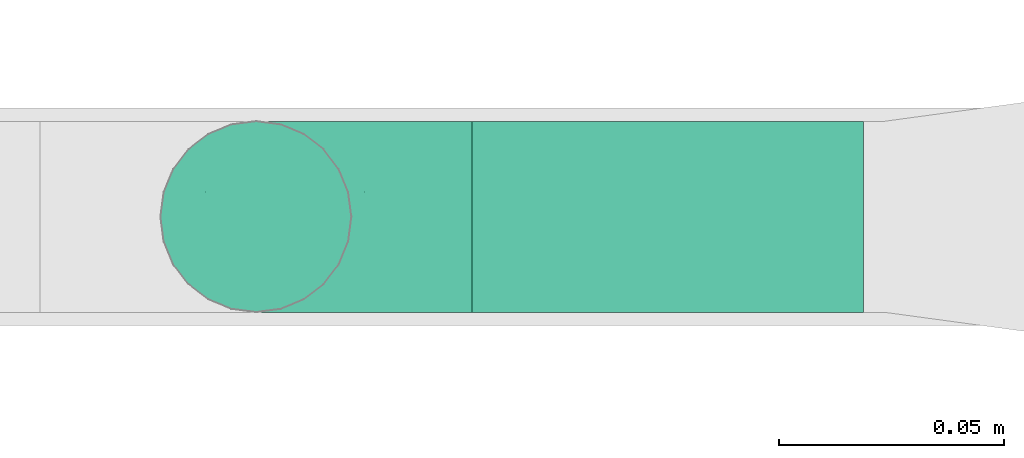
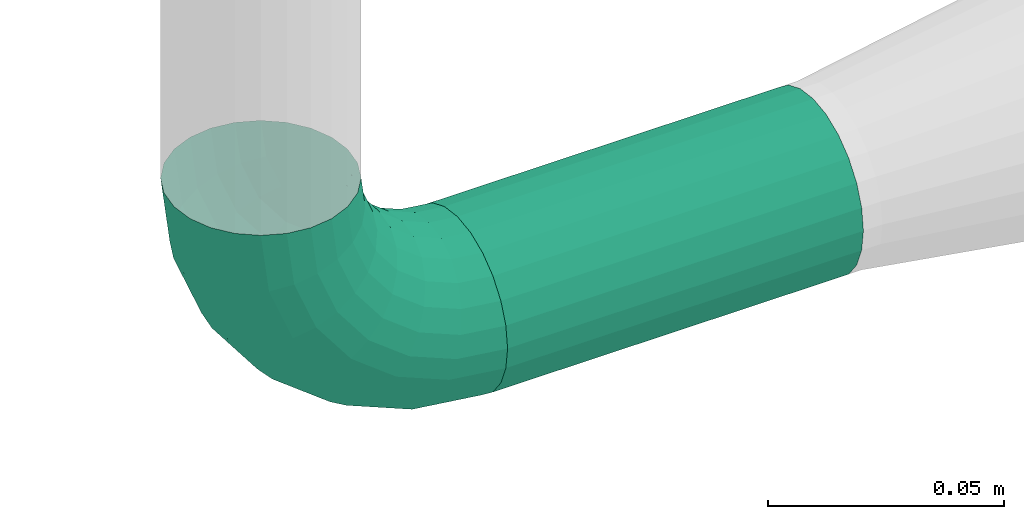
# One storey, part 283 of 374: 2 flow segments.
"""IFC2X3 building model written with IfcOpenShell, lengths in metres."""

from ifc_helpers import new_model, si_unit, direction, origin, place, context, subcontext, project, spatial, open_shell, surface_model, source, transform, mapped, element, save


model = new_model("IFC2X3")

# Units and contexts
model_context = context("Model", 3, precision=1e-05, world=origin(), true_north=direction((-0.4480736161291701, 0.8939966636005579)))
body_context = subcontext(model_context, "Body", "Model", "MODEL_VIEW")
ifc_project = project(units=[si_unit("LENGTHUNIT", "METRE"), si_unit("AREAUNIT", "SQUARE_METRE"), si_unit("VOLUMEUNIT", "CUBIC_METRE"), si_unit("PLANEANGLEUNIT", "RADIAN"), si_unit("THERMODYNAMICTEMPERATUREUNIT", "KELVIN"), si_unit("MASSUNIT", "GRAM", prefix="KILO"), si_unit("TIMEUNIT", "SECOND")], contexts=[model_context])

# Site, building, storey
site_placement = place(None, origin())
site = spatial("IfcSite", under=ifc_project, at=site_placement, Name="Site 1", CompositionType="ELEMENT")
building_placement = place(site_placement, origin())
building = spatial("IfcBuilding", under=site, at=building_placement, Name="Undefined", CompositionType="ELEMENT")
storey_placement = place(building_placement, origin())
storey = spatial("IfcBuildingStorey", under=building, at=storey_placement, Name="Rez de chauss\x8ee", CompositionType="ELEMENT", Elevation=0.0)

# Flow segments
shared_shape_1 = source(origin(), body_context, "Body", "SurfaceModel", [
    surface_model("IfcFaceBasedSurfaceModel", [(0.01806482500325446, 7.105427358e-15, 0.0), (0.017970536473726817, 0.005533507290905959, 0.0), (9.428852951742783e-05, 0.005533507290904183, 1.776356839e-15), (0.0, 0.0, 0.0), (-0.017172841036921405, 0.00613233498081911, -0.004587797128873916), (-0.01744928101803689, 0.0006051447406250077, -0.004636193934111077), (-0.03265412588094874, 0.007289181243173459, -0.013450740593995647), (-0.0330938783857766, 0.0017741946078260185, -0.013592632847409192), (-0.045294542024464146, 0.008925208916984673, -0.02598483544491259), (-0.045867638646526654, 0.0034274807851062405, -0.02625895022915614), (-0.054232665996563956, 0.010928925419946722, -0.041335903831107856), (-0.05490005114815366, 0.005452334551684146, -0.04177195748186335), (-0.05885937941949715, 0.013163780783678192, -0.05845779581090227), (-0.059575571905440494, 0.007710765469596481, -0.05907446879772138), (0.01769409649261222, 0.010875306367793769, -0.0014203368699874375), (0.00037072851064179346, 0.010875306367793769, -0.0014203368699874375), (-0.016362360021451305, 0.011455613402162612, -0.005866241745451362), (-0.03136483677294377, 0.012576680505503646, -0.014455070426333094), (-0.04361430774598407, 0.014162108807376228, -0.026601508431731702), (-0.05227599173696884, 0.016103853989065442, -0.0414777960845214), (-0.05675960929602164, 0.018269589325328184, -0.05807013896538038), (0.017254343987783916, 0.015661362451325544, -0.0041642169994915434), (0.0008104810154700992, 0.015661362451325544, -0.004164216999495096), (-0.01507307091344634, 0.016212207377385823, -0.008384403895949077), (-0.029313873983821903, 0.01727635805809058, -0.016537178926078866), (-0.04094144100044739, 0.01878129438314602, -0.02806694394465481), (-0.049163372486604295, 0.02062445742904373, -0.042187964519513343), (-0.05341935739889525, 0.02268023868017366, -0.05793791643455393), (0.016681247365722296, 0.01956551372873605, -0.008044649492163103), (0.001383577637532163, 0.01956551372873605, -0.008044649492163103), (-0.01339283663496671, 0.020077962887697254, -0.011970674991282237), (-0.026641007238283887, 0.021067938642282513, -0.01955517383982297), (-0.03745809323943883, 0.02246797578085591, -0.03028127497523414), (-0.04510692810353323, 0.0241826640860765, -0.04341801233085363), (-0.04906625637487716, 0.026095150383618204, -0.05807013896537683), (0.016013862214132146, 0.022321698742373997, -0.012797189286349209), (0.0020509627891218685, 0.022321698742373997, -0.012797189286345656), (-0.011436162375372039, 0.02278943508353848, -0.016380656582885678), (-0.023528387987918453, 0.02369303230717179, -0.023303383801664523), (-0.03340164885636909, 0.024970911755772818, -0.03309359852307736), (-0.040383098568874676, 0.026535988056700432, -0.04508411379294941), (-0.04399696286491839, 0.028281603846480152, -0.05845779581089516), (0.015297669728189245, 0.023742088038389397, -0.018097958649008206), (0.00276715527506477, 0.023742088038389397, -0.018097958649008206), (-0.009336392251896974, 0.024161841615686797, -0.021313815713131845), (-0.02018813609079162, 0.02497274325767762, -0.0275263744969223), (-0.029048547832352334, 0.02611953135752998, -0.03631225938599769), (-0.03531380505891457, 0.027524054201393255, -0.04707272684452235), (-0.0385569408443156, 0.02909059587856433, -0.05907446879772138), (0.014581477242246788, 0.023729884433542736, -0.02358571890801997), (0.0034833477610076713, 0.023729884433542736, -0.02358571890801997), (-0.007236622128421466, 0.024101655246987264, -0.026433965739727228), (-0.016847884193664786, 0.02481986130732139, -0.03193635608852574), (-0.02469544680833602, 0.02583555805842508, -0.03971791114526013), (-0.0302445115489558, 0.027079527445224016, -0.04924833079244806), (-0.03311691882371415, 0.02846699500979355, -0.059878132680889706), (0.013914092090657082, 0.02228591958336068, -0.02888648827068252), (0.004150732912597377, 0.022285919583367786, -0.028886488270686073), (-0.005279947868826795, 0.022612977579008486, -0.031392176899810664), (-0.013735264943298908, 0.023244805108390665, -0.03623279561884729), (-0.020639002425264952, 0.02413834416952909, -0.04307846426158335), (-0.025520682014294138, 0.025232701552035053, -0.051462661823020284), (-0.028047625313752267, 0.026453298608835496, -0.060814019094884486), (0.013340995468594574, 0.01950859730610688, -0.03363902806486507), (0.0047238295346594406, 0.01950859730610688, -0.033639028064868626), (-0.0035997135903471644, 0.019797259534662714, -0.035850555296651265), (-0.011062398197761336, 0.0203549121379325, -0.04012289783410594), (-0.017155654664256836, 0.021143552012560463, -0.04616490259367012), (-0.02146423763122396, 0.022109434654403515, -0.05356481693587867), (-0.02369452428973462, 0.023186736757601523, -0.06181834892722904), (0.012901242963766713, 0.015587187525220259, -0.037519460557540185), (0.005163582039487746, 0.015587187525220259, -0.03751946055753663), (-0.0023104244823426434, 0.015846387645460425, -0.03950526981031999), (-0.009011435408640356, 0.016347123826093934, -0.043341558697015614), (-0.01448278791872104, 0.017055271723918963, -0.048766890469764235), (-0.018351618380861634, 0.017922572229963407, -0.05541153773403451), (-0.02035427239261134, 0.018889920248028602, -0.06282267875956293), (0.012624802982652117, 0.010788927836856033, -0.040263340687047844), (0.005440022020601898, 0.010788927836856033, -0.0402633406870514), (-0.0014999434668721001, 0.011029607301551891, -0.04210725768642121), (-0.007722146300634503, 0.01149456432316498, -0.045669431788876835), (-0.012802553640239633, 0.012152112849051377, -0.05070710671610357), (-0.0163949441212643, 0.012957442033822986, -0.056876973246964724), (-0.018254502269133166, 0.013855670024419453, -0.06375856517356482), (0.012530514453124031, 0.005440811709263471, -0.041683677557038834), (0.005534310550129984, 0.0054408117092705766, -0.041683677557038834), (-0.0012235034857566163, 0.005675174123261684, -0.04347919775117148), (-0.007282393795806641, 0.006127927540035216, -0.046947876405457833), (-0.012229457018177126, 0.0067682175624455, -0.05185332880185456), (-0.015727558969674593, 0.007552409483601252, -0.05786125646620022), (-0.01753830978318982, 0.008427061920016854, -0.0645622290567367), (0.012624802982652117, -9.269558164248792e-05, -0.04168367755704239), (0.005440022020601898, -9.269558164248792e-05, -0.04168367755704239), (-0.0014999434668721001, 0.00014798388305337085, -0.0435275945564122), (-0.007722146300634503, 0.0006129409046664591, -0.047089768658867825), (-0.012802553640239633, 0.001270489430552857, -0.05212744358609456), (-0.0163949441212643, 0.002075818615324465, -0.058297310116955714), (-0.018254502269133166, 0.0029740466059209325, -0.06517890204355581), (0.012901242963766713, -0.005434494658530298, -0.0402633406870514), (0.005163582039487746, -0.005434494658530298, -0.040263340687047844), (-0.0023104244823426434, -0.005175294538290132, -0.0422491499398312), (-0.009011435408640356, -0.004674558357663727, -0.046085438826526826), (-0.01448278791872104, -0.0039664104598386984, -0.051510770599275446), (-0.018351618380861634, -0.0030991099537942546, -0.05815541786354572), (-0.02035427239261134, -0.0021317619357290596, -0.06556655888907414), (0.013340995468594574, -0.010220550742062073, -0.03751946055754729), (0.0047238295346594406, -0.010220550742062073, -0.03751946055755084), (-0.0035997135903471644, -0.009931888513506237, -0.03973098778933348), (-0.011062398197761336, -0.009374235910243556, -0.04400333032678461), (-0.017155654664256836, -0.00858559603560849, -0.05004533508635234), (-0.02146423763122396, -0.007619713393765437, -0.057445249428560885), (-0.02369452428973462, -0.006542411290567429, -0.06569878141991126), (0.013914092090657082, -0.01412470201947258, -0.03363902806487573), (0.004150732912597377, -0.014124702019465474, -0.033639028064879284), (-0.005279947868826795, -0.013797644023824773, -0.036144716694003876), (-0.013735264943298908, -0.013165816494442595, -0.0409853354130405), (-0.020639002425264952, -0.012272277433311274, -0.04783100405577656), (-0.025520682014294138, -0.011177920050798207, -0.05621520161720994), (-0.028047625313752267, -0.009957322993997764, -0.0655665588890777), (0.014581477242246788, -0.01688088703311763, -0.028886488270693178), (0.0034833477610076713, -0.01688088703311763, -0.028886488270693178), (-0.007236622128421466, -0.016509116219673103, -0.031734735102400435), (-0.016847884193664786, -0.015790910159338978, -0.03723712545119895), (-0.02469544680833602, -0.014775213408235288, -0.04501868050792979), (-0.0302445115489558, -0.01353124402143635, -0.054549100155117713), (-0.03311691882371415, -0.012143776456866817, -0.06517890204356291), (0.015297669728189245, -0.01830127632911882, -0.02358571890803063), (0.00276715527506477, -0.01830127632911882, -0.02358571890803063), (-0.009336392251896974, -0.01788152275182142, -0.026801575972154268), (-0.02018813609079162, -0.017070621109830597, -0.033014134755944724), (-0.029048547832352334, -0.01592383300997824, -0.04180001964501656), (-0.03531380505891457, -0.014519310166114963, -0.05256048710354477), (-0.0385569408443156, -0.012952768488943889, -0.06456222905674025), (0.016013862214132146, -0.01828907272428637, -0.018097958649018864), (0.0020509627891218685, -0.01828907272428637, -0.018097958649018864), (-0.011436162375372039, -0.01782133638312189, -0.021681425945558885), (-0.023528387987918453, -0.016917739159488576, -0.02860415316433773), (-0.03340164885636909, -0.01563985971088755, -0.038394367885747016), (-0.040383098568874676, -0.014074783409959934, -0.05038488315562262), (-0.04399696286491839, -0.012329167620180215, -0.06375856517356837), (0.016681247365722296, -0.01684510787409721, -0.012797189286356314), (0.001383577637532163, -0.01684510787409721, -0.012797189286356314), (-0.01339283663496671, -0.016332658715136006, -0.01672321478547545), (-0.026641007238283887, -0.015342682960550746, -0.02430771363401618), (-0.03745809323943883, -0.01394264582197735, -0.03503381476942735), (-0.04510692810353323, -0.01222795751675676, -0.04817055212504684), (-0.04906625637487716, -0.010315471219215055, -0.06282267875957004), (0.017254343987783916, -0.014067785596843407, -0.008044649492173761), (0.0008104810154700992, -0.014067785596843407, -0.008044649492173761), (-0.01507307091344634, -0.013516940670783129, -0.012264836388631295), (-0.029313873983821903, -0.012452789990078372, -0.020417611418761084), (-0.04094144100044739, -0.010947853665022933, -0.03194737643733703), (-0.049163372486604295, -0.009104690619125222, -0.04606839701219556), (-0.05341935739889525, -0.007048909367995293, -0.06181834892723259), (0.01769409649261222, -0.010146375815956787, -0.004164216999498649), (0.00037072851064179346, -0.010146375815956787, -0.004164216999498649), (-0.016362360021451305, -0.009566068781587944, -0.008610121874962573), (-0.03136483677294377, -0.008445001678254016, -0.017198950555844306), (-0.04361430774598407, -0.006859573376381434, -0.029345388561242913), (-0.05227599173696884, -0.00491782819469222, -0.04422167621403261), (-0.05675960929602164, -0.002752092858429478, -0.060814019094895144), (0.017970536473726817, -0.0053481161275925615, -0.0014203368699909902), (9.428852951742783e-05, -0.0053481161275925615, -0.0014203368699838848), (-0.017172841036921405, -0.004749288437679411, -0.006008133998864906), (-0.03265412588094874, -0.0035924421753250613, -0.014871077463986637), (-0.045294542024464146, -0.001956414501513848, -0.02740517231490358), (-0.05423266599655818, 4.730200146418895e-05, -0.04275624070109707), (-0.05885937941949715, 0.002282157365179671, -0.05987813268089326)], [open_shell([[[0, 1, 2, 3]], [[3, 2, 4, 5]], [[5, 4, 6, 7]], [[7, 6, 8, 9]], [[9, 8, 10, 11]], [[11, 10, 12, 13]], [[1, 14, 15, 2]], [[2, 15, 16, 4]], [[4, 16, 17, 6]], [[6, 17, 18, 8]], [[8, 18, 19, 10]], [[10, 19, 20, 12]], [[14, 21, 22, 15]], [[15, 22, 23, 16]], [[16, 23, 24, 17]], [[17, 24, 25, 18]], [[18, 25, 26, 19]], [[19, 26, 27, 20]], [[21, 28, 29, 22]], [[22, 29, 30, 23]], [[23, 30, 31, 24]], [[24, 31, 32, 25]], [[25, 32, 33, 26]], [[26, 33, 34, 27]], [[28, 35, 36, 29]], [[29, 36, 37, 30]], [[30, 37, 38, 31]], [[31, 38, 39, 32]], [[32, 39, 40, 33]], [[33, 40, 41, 34]], [[35, 42, 43, 36]], [[36, 43, 44, 37]], [[37, 44, 45, 38]], [[38, 45, 46, 39]], [[39, 46, 47, 40]], [[40, 47, 48, 41]], [[42, 49, 50, 43]], [[43, 50, 51, 44]], [[44, 51, 52, 45]], [[45, 52, 53, 46]], [[46, 53, 54, 47]], [[47, 54, 55, 48]], [[49, 56, 57, 50]], [[50, 57, 58, 51]], [[51, 58, 59, 52]], [[52, 59, 60, 53]], [[53, 60, 61, 54]], [[54, 61, 62, 55]], [[56, 63, 64, 57]], [[57, 64, 65, 58]], [[58, 65, 66, 59]], [[59, 66, 67, 60]], [[60, 67, 68, 61]], [[61, 68, 69, 62]], [[63, 70, 71, 64]], [[64, 71, 72, 65]], [[65, 72, 73, 66]], [[66, 73, 74, 67]], [[67, 74, 75, 68]], [[68, 75, 76, 69]], [[70, 77, 78, 71]], [[71, 78, 79, 72]], [[72, 79, 80, 73]], [[73, 80, 81, 74]], [[74, 81, 82, 75]], [[75, 82, 83, 76]], [[77, 84, 85, 78]], [[78, 85, 86, 79]], [[79, 86, 87, 80]], [[80, 87, 88, 81]], [[81, 88, 89, 82]], [[82, 89, 90, 83]], [[84, 91, 92, 85]], [[85, 92, 93, 86]], [[86, 93, 94, 87]], [[87, 94, 95, 88]], [[88, 95, 96, 89]], [[89, 96, 97, 90]], [[91, 98, 99, 92]], [[92, 99, 100, 93]], [[93, 100, 101, 94]], [[94, 101, 102, 95]], [[95, 102, 103, 96]], [[96, 103, 104, 97]], [[98, 105, 106, 99]], [[99, 106, 107, 100]], [[100, 107, 108, 101]], [[101, 108, 109, 102]], [[102, 109, 110, 103]], [[103, 110, 111, 104]], [[105, 112, 113, 106]], [[106, 113, 114, 107]], [[107, 114, 115, 108]], [[108, 115, 116, 109]], [[109, 116, 117, 110]], [[110, 117, 118, 111]], [[112, 119, 120, 113]], [[113, 120, 121, 114]], [[114, 121, 122, 115]], [[115, 122, 123, 116]], [[116, 123, 124, 117]], [[117, 124, 125, 118]], [[119, 126, 127, 120]], [[120, 127, 128, 121]], [[121, 128, 129, 122]], [[122, 129, 130, 123]], [[123, 130, 131, 124]], [[124, 131, 132, 125]], [[126, 133, 134, 127]], [[127, 134, 135, 128]], [[128, 135, 136, 129]], [[129, 136, 137, 130]], [[130, 137, 138, 131]], [[131, 138, 139, 132]], [[133, 140, 141, 134]], [[134, 141, 142, 135]], [[135, 142, 143, 136]], [[136, 143, 144, 137]], [[137, 144, 145, 138]], [[138, 145, 146, 139]], [[140, 147, 148, 141]], [[141, 148, 149, 142]], [[142, 149, 150, 143]], [[143, 150, 151, 144]], [[144, 151, 152, 145]], [[145, 152, 153, 146]], [[147, 154, 155, 148]], [[148, 155, 156, 149]], [[149, 156, 157, 150]], [[150, 157, 158, 151]], [[151, 158, 159, 152]], [[152, 159, 160, 153]], [[154, 161, 162, 155]], [[155, 162, 163, 156]], [[156, 163, 164, 157]], [[157, 164, 165, 158]], [[158, 165, 166, 159]], [[159, 166, 167, 160]], [[161, 0, 3, 162]], [[162, 3, 5, 163]], [[163, 5, 7, 164]], [[164, 7, 9, 165]], [[165, 9, 11, 166]], [[166, 11, 13, 167]]])]),
])
flow_segment_1_placement = place(storey_placement, origin())
element("IfcFlowSegment", 1, at=flow_segment_1_placement, inside=storey, Name="Tube coudé", ObjectType="Tube coudé", context=body_context, shape_type="MappedRepresentation", body=[
    mapped(shared_shape_1, transform((54.75453831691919, 11.708084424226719, 0.13563392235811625), x_axis=(0.9914448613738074, 0.0, -0.13052619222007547), y_axis=(0.016893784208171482, -0.9915887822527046, 0.12832103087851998), z_axis=(-0.12942830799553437, -0.12942830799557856, -0.9831056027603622))),
])
shared_shape_2 = source(origin(), body_context, "Body", "SurfaceModel", [
    surface_model("IfcFaceBasedSurfaceModel", [(0.0, 0.005534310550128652, 0.0), (0.0, 0.0, 0.0), (0.0868806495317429, 1.776356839e-15, 0.0), (0.0868806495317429, 0.005534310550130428, 0.0), (0.0, -0.00534573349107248, -0.0014323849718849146), (0.0868806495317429, -0.005345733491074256, -0.0014323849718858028), (0.0, -0.010138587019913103, -0.004199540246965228), (0.0868806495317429, -0.010138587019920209, -0.004199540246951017), (0.0, -0.01405193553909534, -0.008112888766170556), (0.0868806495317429, -0.014051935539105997, -0.008112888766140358), (0.0, -0.016819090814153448, -0.012905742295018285), (0.0868806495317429, -0.0168190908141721, -0.012905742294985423), (0.0, -0.018251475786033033, -0.018251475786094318), (0.0868806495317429, -0.018251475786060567, -0.018251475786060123), (0.0, -0.0182514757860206, -0.02378578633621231), (0.0868806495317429, -0.018251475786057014, -0.02378578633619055), (0.0, -0.01681909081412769, -0.029131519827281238), (0.0868806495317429, -0.016819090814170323, -0.02913151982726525), (0.0, -0.014051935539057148, -0.03392437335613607), (0.0868806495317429, -0.014051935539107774, -0.033924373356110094), (0.0, -0.010138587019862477, -0.037837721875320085), (0.0868806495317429, -0.010138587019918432, -0.037837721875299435), (0.0, -0.005345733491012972, -0.040604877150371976), (0.0868806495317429, -0.00534573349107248, -0.040604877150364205), (0.0, 6.4837024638e-14, -0.042037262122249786), (0.0868806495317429, 1.776356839e-15, -0.042037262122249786), (0.0, 0.005534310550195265, -0.04203726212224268), (0.0868806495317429, 0.005534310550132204, -0.042037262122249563), (0.0, 0.010880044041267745, -0.04060487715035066), (0.0868806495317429, 0.010880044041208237, -0.04060487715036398), (0.0, 0.01567289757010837, -0.03783772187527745), (0.0868806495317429, 0.015672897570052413, -0.03783772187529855), (0.0, 0.019586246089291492, -0.033924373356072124), (0.0868806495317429, 0.019586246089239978, -0.03392437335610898), (0.0, 0.0223534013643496, -0.029131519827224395), (0.0868806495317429, 0.022353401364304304, -0.02913151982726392), (0.0, 0.02378578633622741, -0.023785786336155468), (0.0868806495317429, 0.02378578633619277, -0.02378578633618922), (0.0, 0.023785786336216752, -0.01825147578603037), (0.0868806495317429, 0.02378578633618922, -0.01825147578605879), (0.0, 0.022353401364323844, -0.012905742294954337), (0.0868806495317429, 0.022353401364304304, -0.01290574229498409), (0.0, 0.019586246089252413, -0.008112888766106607), (0.0868806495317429, 0.019586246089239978, -0.008112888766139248), (0.0, 0.015672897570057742, -0.004199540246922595), (0.0868806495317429, 0.015672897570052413, -0.004199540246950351), (0.0, 0.010880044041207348, -0.0014323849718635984), (0.0868806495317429, 0.01088004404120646, -0.0014323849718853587)], [open_shell([[[0, 1, 2, 3]], [[1, 4, 5, 2]], [[4, 6, 7, 5]], [[6, 8, 9, 7]], [[8, 10, 11, 9]], [[10, 12, 13, 11]], [[12, 14, 15, 13]], [[14, 16, 17, 15]], [[16, 18, 19, 17]], [[18, 20, 21, 19]], [[20, 22, 23, 21]], [[22, 24, 25, 23]], [[24, 26, 27, 25]], [[26, 28, 29, 27]], [[28, 30, 31, 29]], [[30, 32, 33, 31]], [[32, 34, 35, 33]], [[34, 36, 37, 35]], [[36, 38, 39, 37]], [[38, 40, 41, 39]], [[40, 42, 43, 41]], [[42, 44, 45, 43]], [[44, 46, 47, 45]], [[46, 0, 3, 47]]])]),
])
flow_segment_2_placement = place(storey_placement, origin())
element("IfcFlowSegment", 2, at=flow_segment_2_placement, inside=storey, Name="Tube acier d'après DIN 2448", ObjectType="Tube acier d'après DIN 2448", context=body_context, shape_type="MappedRepresentation", body=[
    mapped(shared_shape_2, transform((54.859329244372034, 11.713571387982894, 0.17495361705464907), x_axis=(-1.0, 0.0, 0.0), y_axis=(7.266545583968e-12, -0.9914448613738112, 0.13052619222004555), z_axis=(0.0, 0.13052619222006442, 0.9914448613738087))),
])

save(model, "model.ifc")
